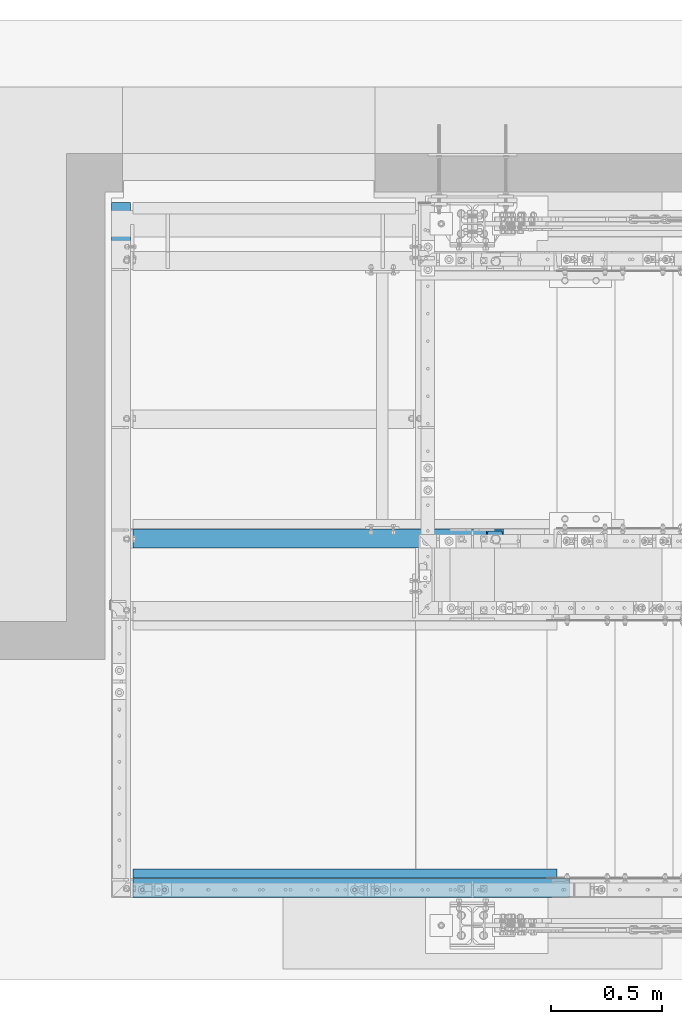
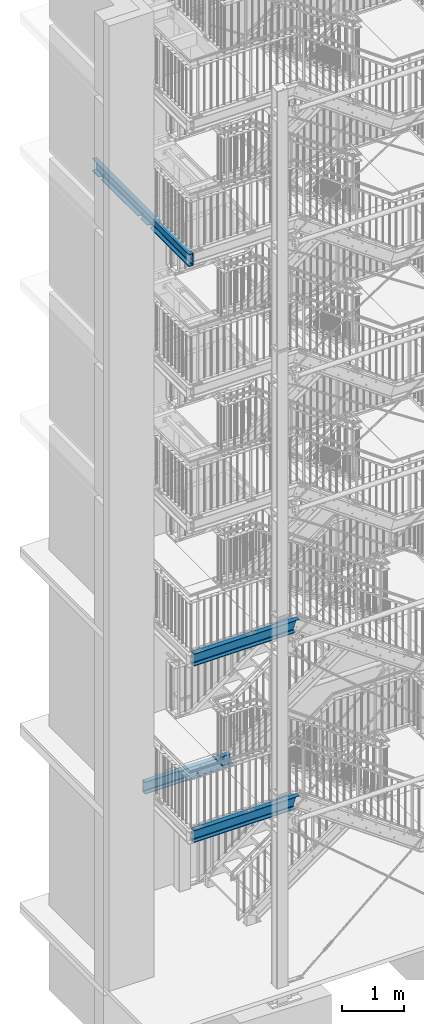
# One storey, part 116 of 831: 6 beams, 31 openings.
"""IFC2X3 building model written with IfcOpenShell, lengths in millimetres."""

import ifcopenshell
import ifcopenshell.guid

model = None  # the IFC model being written
_history = None  # IfcOwnerHistory: only IFC2X3 demands one
_inside = {}  # id of a spatial element -> (the spatial element, [elements in it])
_under = {}  # id of a project, library or spatial element -> (it, [spatial elements below it])
_declared = {}  # id of a project -> (the project, [libraries it declares])
_typed = {}  # id of a type object -> (the type object, [elements of that type])
_made_of = {}  # id of a material, layer set ... -> (it, [elements and type objects made of it])


def new_model(schema):
    """Start an empty IFC model of exactly this schema.

    Asked for "IFC4X3", IfcOpenShell would pick the latest addendum, in which some entities
    have other attributes; the version numbers below select the first issue.
    IFC2X3 requires an IfcOwnerHistory on every rooted entity: one is made here for all.
    """
    global model, _history
    if schema == "IFC4X3":
        model = ifcopenshell.file(schema_version=(4, 3, 0, 0))
    else:
        model = ifcopenshell.file(schema=schema)
    _inside.clear()
    _under.clear()
    _declared.clear()
    _typed.clear()
    _made_of.clear()
    _history = None
    if model.schema == "IFC2X3":
        org = make("IfcOrganization", Name="unknown")
        user = make(
            "IfcPersonAndOrganization",
            ThePerson=make("IfcPerson", FamilyName="unknown"),
            TheOrganization=org,
        )
        app = make(
            "IfcApplication",
            ApplicationDeveloper=org,
            Version="unknown",
            ApplicationFullName="unknown",
            ApplicationIdentifier="unknown",
        )
        _history = make(
            "IfcOwnerHistory",
            OwningUser=user,
            OwningApplication=app,
            ChangeAction="ADDED",
            CreationDate=0,
        )
    return model


def make(cls, **values):
    """One entity of the class cls with the attributes given. An attribute that is None is left unset."""
    return model.create_entity(
        cls, **{name: value for name, value in values.items() if value is not None}
    )


def entity(cls, *values):
    """Any entity or typed value of the class cls, its attributes in the order of the schema. None: left unset."""
    e = model.create_entity(cls)
    for i, value in enumerate(values):
        if value is not None:
            e[i] = value
    return e


def rooted(cls, **values):
    """An entity with a GlobalId (a new one), such as an element, a storey or a relation."""
    return make(cls, GlobalId=ifcopenshell.guid.new(), OwnerHistory=_history, **values)


def si_unit(unit_type, name, prefix=None):
    """IfcSIUnit, for example si_unit("LENGTHUNIT", "METRE", prefix="MILLI")."""
    return make("IfcSIUnit", UnitType=unit_type, Prefix=prefix, Name=name)


def converted_unit(unit_type, name, factor, base, dimensions=None, offset=None):
    """IfcConversionBasedUnit, such as the inch: factor (a typed value) times the base unit."""
    return make(
        "IfcConversionBasedUnit"
        if offset is None
        else "IfcConversionBasedUnitWithOffset",
        ConversionOffset=offset,
        Dimensions=None
        if dimensions is None
        else entity("IfcDimensionalExponents", *dimensions),
        UnitType=unit_type,
        Name=name,
        ConversionFactor=make(
            "IfcMeasureWithUnit", ValueComponent=factor, UnitComponent=base
        ),
    )


def assignment(units):
    """IfcUnitAssignment: the units of a project."""
    return None if units is None else make("IfcUnitAssignment", Units=units)


def point(xyz):
    """IfcCartesianPoint."""
    return None if xyz is None else make("IfcCartesianPoint", Coordinates=xyz)


def direction(xyz):
    """IfcDirection."""
    return None if xyz is None else make("IfcDirection", DirectionRatios=xyz)


def frame(location, z_axis=None, x_axis=None):
    """IfcAxis2Placement3D, a coordinate frame: its origin and axes. An axis left out is left unset."""
    return make(
        "IfcAxis2Placement3D",
        Location=point(location),
        Axis=direction(z_axis),
        RefDirection=direction(x_axis),
    )


def frame_2d(location, x_axis=None):
    """IfcAxis2Placement2D, a coordinate frame in the plane: its origin and x axis."""
    return make(
        "IfcAxis2Placement2D", Location=point(location), RefDirection=direction(x_axis)
    )


def origin():
    """The frame at (0, 0, 0) with its axes left unset."""
    return frame((0.0, 0.0, 0.0))


def origin_with_axes():
    """The frame at (0, 0, 0) with the z axis (0, 0, 1) and the x axis (1, 0, 0) written out."""
    return frame((0.0, 0.0, 0.0), z_axis=(0.0, 0.0, 1.0), x_axis=(1.0, 0.0, 0.0))


def origin_2d_with_axis():
    """The frame at (0, 0) in the plane with the x axis (1, 0) written out."""
    return frame_2d((0.0, 0.0), x_axis=(1.0, 0.0))


def place(relative_to, where):
    """IfcLocalPlacement: puts the frame where relative to a parent placement (None: the world)."""
    return make(
        "IfcLocalPlacement", PlacementRelTo=relative_to, RelativePlacement=where
    )


def context(
    kind, dimensions, precision=None, world=None, true_north=None, identifier=None
):
    """IfcGeometricRepresentationContext, for example the 3D "Model" context."""
    return make(
        "IfcGeometricRepresentationContext",
        ContextIdentifier=identifier,
        ContextType=kind,
        CoordinateSpaceDimension=dimensions,
        Precision=precision,
        WorldCoordinateSystem=world,
        TrueNorth=true_north,
    )


def project(units=None, contexts=None):
    """IfcProject with its units and contexts."""
    return rooted(
        "IfcProject",
        Name="project",
        RepresentationContexts=contexts,
        UnitsInContext=assignment(units),
    )


def spatial(cls, under=None, at=None, **own):
    """A site, building, storey or space (cls), placed at a placement, below another one or the project."""
    s = rooted(cls, ObjectPlacement=at, **own)
    if under is not None:
        _under.setdefault(under.id(), (under, []))[1].append(s)
    return s


def circle_curve(where, radius):
    """IfcCircle in the frame where."""
    return make("IfcCircle", Position=where, Radius=radius)


def line_curve(start, along, magnitude):
    """IfcLine from a point along a vector."""
    return make(
        "IfcLine",
        Pnt=point(start),
        Dir=make("IfcVector", Orientation=direction(along), Magnitude=magnitude),
    )


def trimmed(basis, trim1, trim2, sense, master):
    """IfcTrimmedCurve: the piece of a basis curve between two trims."""
    return make(
        "IfcTrimmedCurve",
        BasisCurve=basis,
        Trim1=trim1,
        Trim2=trim2,
        SenseAgreement=sense,
        MasterRepresentation=master,
    )


def segment(curve, same_sense, transition):
    """IfcCompositeCurveSegment."""
    return make(
        "IfcCompositeCurveSegment",
        Transition=transition,
        SameSense=same_sense,
        ParentCurve=curve,
    )


def composite_curve(segments, self_intersect=None):
    """IfcCompositeCurve: segments joined end to end."""
    return make("IfcCompositeCurve", Segments=segments, SelfIntersect=self_intersect)


def profile(cls, at=None, kind="AREA", **sizes):
    """A parametric profile (cls). Its sizes go by their IFC names, for example OverallWidth=200.0."""
    return make(cls, ProfileType=kind, Position=at, **sizes)


def circle(**sizes):
    """IfcCircleProfileDef."""
    return profile("IfcCircleProfileDef", **sizes)


def l_section(**sizes):
    """IfcLShapeProfileDef."""
    return profile("IfcLShapeProfileDef", **sizes)


def u_section(**sizes):
    """IfcUShapeProfileDef."""
    return profile("IfcUShapeProfileDef", **sizes)


def outline(outer, holes=None, kind="AREA"):
    """IfcArbitraryClosedProfileDef: a profile drawn as a closed curve; with holes, ...WithVoids."""
    if holes is None:
        return make("IfcArbitraryClosedProfileDef", ProfileType=kind, OuterCurve=outer)
    return make(
        "IfcArbitraryProfileDefWithVoids",
        ProfileType=kind,
        OuterCurve=outer,
        InnerCurves=holes,
    )


def extrude(swept, where, along, depth):
    """IfcExtrudedAreaSolid: the profile swept, set in the frame where, extruded along a direction by depth."""
    return make(
        "IfcExtrudedAreaSolid",
        SweptArea=swept,
        Position=where,
        ExtrudedDirection=direction(along),
        Depth=depth,
    )


def clip(a, b, op="DIFFERENCE"):
    """IfcBooleanClippingResult: the solid a cut by the half space b."""
    return make(
        "IfcBooleanClippingResult", Operator=op, FirstOperand=a, SecondOperand=b
    )


def halfspace(plane, agree):
    """IfcHalfSpaceSolid: all space on one side of the plane z = 0 of the frame plane."""
    return make(
        "IfcHalfSpaceSolid",
        BaseSurface=make("IfcPlane", Position=plane),
        AgreementFlag=agree,
    )


def shape(context_of_items, identifier, shape_type, items):
    """IfcShapeRepresentation: the items that make up one representation, for example the "Body"."""
    return make(
        "IfcShapeRepresentation",
        ContextOfItems=context_of_items,
        RepresentationIdentifier=identifier,
        RepresentationType=shape_type,
        Items=items,
    )


def material(Name=None, Category=None):
    """IfcMaterial."""
    return make("IfcMaterial", Name=Name, Category=Category)


def made_of(thing, what):
    """Note that an element or type object is made of a material, layer set ...; save() writes the relation."""
    if what is not None:
        _made_of.setdefault(what.id(), (what, []))[1].append(thing)
    return thing


def element(
    cls,
    number,
    at=None,
    inside=None,
    cuts=None,
    type_object=None,
    material=None,
    context=None,
    identifier="Body",
    shape_type=None,
    held_by="IfcProductDefinitionShape",
    body=None,
    shapes=None,
    **own,
):
    """One element of the class cls, such as IfcWall. Its Tag is "e" and its number.

    at: its placement. inside: the storey or other place that contains it. cuts: it is an
    opening in that element (IfcRelVoidsElement). A single representation is given by context,
    identifier, shape_type and body (its items); several are given by shapes. held_by: the class
    of the entity that holds the representations. save() writes the other relations.
    """
    e = rooted(cls, Tag="e%d" % number, ObjectPlacement=at, **own)
    if body is not None:
        shapes = [shape(context, identifier, shape_type, body)]
    if shapes is not None:
        e.Representation = make(held_by, Representations=shapes)
    if inside is not None:
        _inside.setdefault(inside.id(), (inside, []))[1].append(e)
    if cuts is not None:
        rooted(
            "IfcRelVoidsElement", RelatingBuildingElement=cuts, RelatedOpeningElement=e
        )
    if type_object is not None:
        _typed.setdefault(type_object.id(), (type_object, []))[1].append(e)
    return made_of(e, material)


def aggregate(whole, parts):
    """IfcRelAggregates: a whole, such as a stair, and the parts it consists of."""
    return rooted("IfcRelAggregates", RelatingObject=whole, RelatedObjects=parts)


def save(model, path):
    """Write the relations noted so far, then the file.

    IfcRelAggregates (storeys below a building ...), IfcRelContainedInSpatialStructure (elements
    in a storey), IfcRelDefinesByType, IfcRelAssociatesMaterial and IfcRelDeclares: one each for
    every whole, place, type object, material and project.
    """
    for whole, parts in _under.values():
        aggregate(whole, parts)
    for where, things in _inside.values():
        rooted(
            "IfcRelContainedInSpatialStructure",
            RelatedElements=things,
            RelatingStructure=where,
        )
    for kind, things in _typed.values():
        rooted("IfcRelDefinesByType", RelatedObjects=things, RelatingType=kind)
    for what, things in _made_of.values():
        rooted("IfcRelAssociatesMaterial", RelatedObjects=things, RelatingMaterial=what)
    for by, libraries in _declared.values():
        rooted("IfcRelDeclares", RelatingContext=by, RelatedDefinitions=libraries)
    model.write(path)


model = new_model("IFC2X3")

# Units and contexts
model_context = context("Model", 3, precision=1e-09, world=origin_with_axes())
ifc_project = project(units=[si_unit("LENGTHUNIT", "METRE", prefix="MILLI"), si_unit("AREAUNIT", "SQUARE_METRE"), si_unit("VOLUMEUNIT", "CUBIC_METRE"), converted_unit("PLANEANGLEUNIT", "DEGREE", entity("IfcPlaneAngleMeasure", 0.01745329), si_unit("PLANEANGLEUNIT", "RADIAN"), dimensions=[0, 0, 0, 0, 0, 0, 0])], contexts=[model_context])

# Site, building, storey
site_placement = place(None, origin_with_axes())
site = spatial("IfcSite", under=ifc_project, at=site_placement, Name="Site", CompositionType="ELEMENT")
building_placement = place(site_placement, origin_with_axes())
building = spatial("IfcBuilding", under=site, at=building_placement, Name="Struktur 1", CompositionType="ELEMENT")
storey_placement = place(building_placement, origin_with_axes())
storey = spatial("IfcBuildingStorey", under=building, at=storey_placement, Name="Default Storey", CompositionType="ELEMENT", Elevation=0.0)

# Beam, openings
ifc_material = material(Name="S235JR")
beam_1_placement = place(None, frame((3074.409632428, 6124.436971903, 3727.0), z_axis=(-1.0, 0.0, 0.0), x_axis=(0.0, -1.0, 0.0)))
beam_1 = element("IfcBeam", 1, at=beam_1_placement, inside=storey, material=ifc_material, Name="BottomLanding#1", ObjectType="BottomLanding#1", context=model_context, shape_type="Clipping", body=[
    clip(clip(extrude(u_section(Depth=240.0, FlangeWidth=85.0, WebThickness=9.5, FlangeThickness=13.0, FilletRadius=13.0, EdgeRadius=6.5, FlangeSlope=4.574, at=frame_2d((20.2, 0.0))), origin(), (0.0, 0.0, -1.0), 2104.790555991), halfspace(frame((6124.436971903, -3727.0, -257.304770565), z_axis=(0.0, 0.0, -1.0), x_axis=(-1.0, 0.0, 0.0)), True)), halfspace(frame((6124.436971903, -1962.281935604, -2504.118187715), z_axis=(0.0, -0.301609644, 0.953431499), x_axis=(1.0, 0.0, 0.0)), True)),
])
opening_1_placement = place(beam_1_placement, frame((-12.3, 20.0, -1420.302770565), z_axis=(1.0, 0.0, 0.0), x_axis=(0.0, 1.0, 0.0)))
element("IfcOpeningElement", 2, at=opening_1_placement, cuts=beam_1, ObjectType="Opening", context=model_context, shape_type="SweptSolid", body=[
    extrude(circle(Radius=7.001, at=frame_2d((0.0, -7.001), x_axis=(1.0, 0.0))), origin(), (0.0, 0.0, -1.0), 10.5),
])
opening_2_placement = place(beam_1_placement, frame((-12.3, 20.0, -1320.302770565), z_axis=(1.0, 0.0, 0.0), x_axis=(0.0, 1.0, 0.0)))
element("IfcOpeningElement", 3, at=opening_2_placement, cuts=beam_1, ObjectType="Opening", context=model_context, shape_type="SweptSolid", body=[
    extrude(circle(Radius=7.001, at=frame_2d((0.0, -7.001), x_axis=(1.0, 0.0))), origin(), (0.0, 0.0, -1.0), 10.5),
])
opening_3_placement = place(beam_1_placement, frame((32.7, 120.5, -1670.302770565), z_axis=(0.0, 1.0, 0.0), x_axis=(-1.0, 0.0, 0.0)))
element("IfcOpeningElement", 4, at=opening_3_placement, cuts=beam_1, ObjectType="Opening", context=model_context, shape_type="SweptSolid", body=[
    extrude(circle(Radius=7.001, at=frame_2d((0.0, -7.001), x_axis=(1.0, 0.0))), origin(), (0.0, 0.0, -1.0), 14.0),
])
opening_4_placement = place(beam_1_placement, frame((32.7, 120.5, -1570.302770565), z_axis=(0.0, 1.0, 0.0), x_axis=(-1.0, 0.0, 0.0)))
element("IfcOpeningElement", 5, at=opening_4_placement, cuts=beam_1, ObjectType="Opening", context=model_context, shape_type="SweptSolid", body=[
    extrude(circle(Radius=7.001, at=frame_2d((0.0, -7.001), x_axis=(1.0, 0.0))), origin(), (0.0, 0.0, -1.0), 14.0),
])
opening_5_placement = place(beam_1_placement, frame((22.7, -120.5, -1832.303770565), z_axis=(0.0, 1.0, 0.0), x_axis=(-1.0, 0.0, 0.0)))
element("IfcOpeningElement", 6, at=opening_5_placement, cuts=beam_1, ObjectType="Opening", context=model_context, shape_type="SweptSolid", body=[
    extrude(circle(Radius=7.001, at=origin_2d_with_axis()), origin(), (0.0, 0.0, 1.0), 14.0),
])
opening_6_placement = place(beam_1_placement, frame((22.7, -120.5, -1732.303770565), z_axis=(0.0, 1.0, 0.0), x_axis=(-1.0, 0.0, 0.0)))
element("IfcOpeningElement", 7, at=opening_6_placement, cuts=beam_1, ObjectType="Opening", context=model_context, shape_type="SweptSolid", body=[
    extrude(circle(Radius=7.001, at=origin_2d_with_axis()), origin(), (0.0, 0.0, 1.0), 14.0),
])

beam_2_placement = place(None, frame((5552.525390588, 4554.436971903, 3727.0), z_axis=(-1.0, 0.0, 0.0), x_axis=(0.0, -1.0, 0.0)))
beam_2 = element("IfcBeam", 8, at=beam_2_placement, inside=storey, material=ifc_material, Name="Stringer", ObjectType="Stringer", context=model_context, shape_type="Clipping", body=[
    clip(clip(extrude(u_section(Depth=240.0, FlangeWidth=85.0, WebThickness=9.5, FlangeThickness=13.0, FilletRadius=13.0, EdgeRadius=6.5, FlangeSlope=4.574, at=frame_2d((20.2, 0.0))), origin(), (0.0, 0.0, 1.0), 2478.11575816), halfspace(frame((4554.436971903, -3727.0, 2220.810987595), z_axis=(0.0, 0.0, -1.0), x_axis=(-1.0, 0.0, 0.0)), True)), halfspace(frame((4554.436971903, -4905.321546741, 1865.767544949), z_axis=(0.0, 0.304437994, 0.952532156), x_axis=(1.0, 0.0, 0.0)), True)),
])
opening_7_placement = place(beam_2_placement, frame((27.7, 120.5, 2170.735869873), z_axis=(0.0, 1.0, 0.0), x_axis=(-1.0, 0.0, 0.0)))
element("IfcOpeningElement", 9, at=opening_7_placement, cuts=beam_2, ObjectType="Opening", context=model_context, shape_type="SweptSolid", body=[
    extrude(circle(Radius=7.001, at=frame_2d((0.0, 7.001), x_axis=(1.0, 0.0))), origin(), (0.0, 0.0, -1.0), 14.0),
])
opening_8_placement = place(beam_2_placement, frame((27.7, 120.5, 2070.735869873), z_axis=(0.0, 1.0, 0.0), x_axis=(-1.0, 0.0, 0.0)))
element("IfcOpeningElement", 10, at=opening_8_placement, cuts=beam_2, ObjectType="Opening", context=model_context, shape_type="SweptSolid", body=[
    extrude(circle(Radius=7.001, at=frame_2d((0.0, 7.001), x_axis=(1.0, 0.0))), origin(), (0.0, 0.0, -1.0), 14.0),
])
opening_9_placement = place(beam_2_placement, frame((27.7, 120.5, 1217.65875215), z_axis=(0.0, 1.0, 0.0), x_axis=(-1.0, 0.0, 0.0)))
element("IfcOpeningElement", 11, at=opening_9_placement, cuts=beam_2, ObjectType="Opening", context=model_context, shape_type="SweptSolid", body=[
    extrude(circle(Radius=7.001, at=frame_2d((0.0, 7.001), x_axis=(1.0, 0.0))), origin(), (0.0, 0.0, -1.0), 14.0),
])
opening_10_placement = place(beam_2_placement, frame((27.7, 120.5, 1117.65875215), z_axis=(0.0, 1.0, 0.0), x_axis=(-1.0, 0.0, 0.0)))
element("IfcOpeningElement", 12, at=opening_10_placement, cuts=beam_2, ObjectType="Opening", context=model_context, shape_type="SweptSolid", body=[
    extrude(circle(Radius=7.001, at=frame_2d((0.0, 7.001), x_axis=(1.0, 0.0))), origin(), (0.0, 0.0, -1.0), 14.0),
])
opening_11_placement = place(beam_2_placement, frame((29.701, -120.5, 645.811987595), z_axis=(0.0, -1.0, 0.0), x_axis=(1.0, 0.0, 0.0)))
element("IfcOpeningElement", 13, at=opening_11_placement, cuts=beam_2, ObjectType="Opening", context=model_context, shape_type="SweptSolid", body=[
    extrude(circle(Radius=7.001, at=frame_2d((-7.001, 0.0), x_axis=(1.0, 0.0))), origin(), (0.0, 0.0, -1.0), 14.0),
])
opening_12_placement = place(beam_2_placement, frame((29.701, -120.5, 745.811987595), z_axis=(0.0, -1.0, 0.0), x_axis=(1.0, 0.0, 0.0)))
element("IfcOpeningElement", 14, at=opening_12_placement, cuts=beam_2, ObjectType="Opening", context=model_context, shape_type="SweptSolid", body=[
    extrude(circle(Radius=7.001, at=frame_2d((-7.001, 0.0), x_axis=(1.0, 0.0))), origin(), (0.0, 0.0, -1.0), 14.0),
])

# Beam
beam_3_placement = place(None, frame((5236.713402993, 4590.936971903, 3835.8), z_axis=(1.0, 0.0, 0.0), x_axis=(0.0, 0.0, -1.0)))
element("IfcBeam", 15, at=beam_3_placement, inside=storey, material=ifc_material, Name="TopLanding#3", ObjectType="TopLanding#3", context=model_context, shape_type="SweptSolid", body=[
    extrude(l_section(Depth=40.0, Width=40.0, Thickness=4.0, FilletRadius=6.0, EdgeRadius=3.0, at=frame_2d((8.8, 8.8))), origin(), (0.0, 0.0, -1.0), 1905.0),
])

# Beam, openings
beam_4_placement = place(None, frame((5552.992298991, 4554.436971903, 7200.0), z_axis=(-1.0, 0.0, 0.0), x_axis=(0.0, -1.0, 0.0)))
beam_4 = element("IfcBeam", 16, at=beam_4_placement, inside=storey, material=ifc_material, Name="Stringer", ObjectType="Stringer", context=model_context, shape_type="Clipping", body=[
    clip(clip(extrude(u_section(Depth=240.0, FlangeWidth=85.0, WebThickness=9.5, FlangeThickness=13.0, FilletRadius=13.0, EdgeRadius=6.5, FlangeSlope=4.574, at=frame_2d((20.2, 0.0))), origin(), (0.0, 0.0, 1.0), 2478.582666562), halfspace(frame((4554.436971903, -7200.0, 2221.277895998), z_axis=(0.0, 0.0, -1.0), x_axis=(-1.0, 0.0, 0.0)), True)), halfspace(frame((4554.436971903, -8056.363400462, 2845.904323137), z_axis=(0.0, 0.301609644, 0.953431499), x_axis=(1.0, 0.0, 0.0)), True)),
])
opening_13_placement = place(beam_4_placement, frame((27.7, 120.5, 2171.19975314), z_axis=(0.0, 1.0, 0.0), x_axis=(-1.0, 0.0, 0.0)))
element("IfcOpeningElement", 17, at=opening_13_placement, cuts=beam_4, ObjectType="Opening", context=model_context, shape_type="SweptSolid", body=[
    extrude(circle(Radius=7.001, at=frame_2d((0.0, 7.001), x_axis=(1.0, 0.0))), origin(), (0.0, 0.0, -1.0), 14.0),
])
opening_14_placement = place(beam_4_placement, frame((27.7, 120.5, 2071.19975314), z_axis=(0.0, 1.0, 0.0), x_axis=(-1.0, 0.0, 0.0)))
element("IfcOpeningElement", 18, at=opening_14_placement, cuts=beam_4, ObjectType="Opening", context=model_context, shape_type="SweptSolid", body=[
    extrude(circle(Radius=7.001, at=frame_2d((0.0, 7.001), x_axis=(1.0, 0.0))), origin(), (0.0, 0.0, -1.0), 14.0),
])
opening_15_placement = place(beam_4_placement, frame((27.7, 120.5, 1186.199610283), z_axis=(0.0, 1.0, 0.0), x_axis=(-1.0, 0.0, 0.0)))
element("IfcOpeningElement", 19, at=opening_15_placement, cuts=beam_4, ObjectType="Opening", context=model_context, shape_type="SweptSolid", body=[
    extrude(circle(Radius=7.001, at=frame_2d((0.0, 7.001), x_axis=(1.0, 0.0))), origin(), (0.0, 0.0, -1.0), 14.0),
])
opening_16_placement = place(beam_4_placement, frame((27.7, 120.5, 1086.199610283), z_axis=(0.0, 1.0, 0.0), x_axis=(-1.0, 0.0, 0.0)))
element("IfcOpeningElement", 20, at=opening_16_placement, cuts=beam_4, ObjectType="Opening", context=model_context, shape_type="SweptSolid", body=[
    extrude(circle(Radius=7.001, at=frame_2d((0.0, 7.001), x_axis=(1.0, 0.0))), origin(), (0.0, 0.0, -1.0), 14.0),
])
opening_17_placement = place(beam_4_placement, frame((29.701, -120.5, 646.278895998), z_axis=(0.0, -1.0, 0.0), x_axis=(1.0, 0.0, 0.0)))
element("IfcOpeningElement", 21, at=opening_17_placement, cuts=beam_4, ObjectType="Opening", context=model_context, shape_type="SweptSolid", body=[
    extrude(circle(Radius=7.001, at=frame_2d((-7.001, 0.0), x_axis=(1.0, 0.0))), origin(), (0.0, 0.0, -1.0), 14.0),
])
opening_18_placement = place(beam_4_placement, frame((29.701, -120.5, 746.278895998), z_axis=(0.0, -1.0, 0.0), x_axis=(1.0, 0.0, 0.0)))
element("IfcOpeningElement", 22, at=opening_18_placement, cuts=beam_4, ObjectType="Opening", context=model_context, shape_type="SweptSolid", body=[
    extrude(circle(Radius=7.001, at=frame_2d((-7.001, 0.0), x_axis=(1.0, 0.0))), origin(), (0.0, 0.0, -1.0), 14.0),
])

# Beam
beam_5_placement = place(None, frame((5236.713402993, 4590.936971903, 7308.8), z_axis=(1.0, 0.0, 0.0), x_axis=(0.0, 0.0, -1.0)))
element("IfcBeam", 23, at=beam_5_placement, inside=storey, material=ifc_material, Name="TopLanding#3", ObjectType="TopLanding#3", context=model_context, shape_type="SweptSolid", body=[
    extrude(l_section(Depth=40.0, Width=40.0, Thickness=4.0, FilletRadius=6.0, EdgeRadius=3.0, at=frame_2d((8.8, 8.8))), origin(), (0.0, 0.0, -1.0), 1905.0),
])

# Beam, openings
beam_6_placement = place(None, frame((3299.413402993, 4491.736971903, 15094.0), z_axis=(0.0, 1.0, 0.0), x_axis=(-1.0, 0.0, 0.0)))
beam_6 = element("IfcBeam", 24, at=beam_6_placement, inside=storey, material=ifc_material, Name="Girder", ObjectType="Girder", context=model_context, shape_type="SweptSolid", body=[
    extrude(u_section(Depth=240.0, FlangeWidth=85.0, WebThickness=9.5, FlangeThickness=13.0, FilletRadius=13.0, EdgeRadius=6.5, FlangeSlope=4.574, at=frame_2d((20.2, 0.0))), origin(), (0.0, 0.0, 1.0), 3120.0),
])
opening_19_placement = place(beam_6_placement, frame((81.62874817, -30.0, 1269.999), z_axis=(0.0, 1.0, 0.0), x_axis=(-0.707106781, 0.0, -0.707106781)))
element("IfcOpeningElement", 25, at=opening_19_placement, cuts=beam_6, ObjectType="Opening", context=model_context, shape_type="SweptSolid", body=[
    extrude(outline(composite_curve([segment(trimmed(circle_curve(frame_2d((7.071067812, 7.071067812), x_axis=(1.0, 0.0)), 10.0), [point((0.0, 0.0))], [point((14.142135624, 0.0))], True, "CARTESIAN"), True, "CONTINUOUS"), segment(trimmed(line_curve((14.142135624, 0.0), (0.707106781, 0.707106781), 48.92974817), [point((14.142135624, 0.0))], [point((48.740692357, 34.598556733))], True, "CARTESIAN"), True, "CONTINUOUS"), segment(trimmed(circle_curve(frame_2d((41.669624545, 41.669624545), x_axis=(1.0, 0.0)), 10.0), [point((48.740692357, 34.598556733))], [point((48.740692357, 48.740692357))], True, "CARTESIAN"), True, "CONTINUOUS"), segment(trimmed(line_curve((48.740692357, 48.740692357), (-0.707106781, 0.707106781), 60.002), [point((48.740692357, 48.740692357))], [point((6.312871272, 91.168513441))], True, "CARTESIAN"), True, "CONTINUOUS"), segment(trimmed(circle_curve(frame_2d((-0.75819654, 84.097445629), x_axis=(1.0, 0.0)), 10.0), [point((6.312871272, 91.168513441))], [point((-7.829264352, 91.168513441))], True, "CARTESIAN"), True, "CONTINUOUS"), segment(trimmed(line_curve((-7.829264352, 91.168513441), (-0.707106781, -0.707106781), 48.92974817), [point((-7.829264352, 91.168513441))], [point((-42.427821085, 56.569956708))], True, "CARTESIAN"), True, "CONTINUOUS"), segment(trimmed(circle_curve(frame_2d((-35.356753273, 49.498888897), x_axis=(1.0, 0.0)), 10.0), [point((-42.427821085, 56.569956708))], [point((-42.427821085, 42.427821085))], True, "CARTESIAN"), True, "CONTINUOUS"), segment(trimmed(line_curve((-42.427821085, 42.427821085), (0.707106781, -0.707106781), 60.002), [point((-42.427821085, 42.427821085))], [point((0.0, 0.0))], True, "CARTESIAN"), True, "CONTINUOUS")], self_intersect=False)), origin(), (0.0, 0.0, -1.0), 190.1),
])
opening_20_placement = place(beam_6_placement, frame((79.429256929, -30.0, 2839.999), z_axis=(0.0, 1.0, 0.0), x_axis=(-0.707106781, 0.0, -0.707106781)))
element("IfcOpeningElement", 26, at=opening_20_placement, cuts=beam_6, ObjectType="Opening", context=model_context, shape_type="SweptSolid", body=[
    extrude(outline(composite_curve([segment(trimmed(circle_curve(frame_2d((7.071067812, 7.071067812), x_axis=(1.0, 0.0)), 10.0), [point((0.0, 0.0))], [point((14.142135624, 0.0))], True, "CARTESIAN"), True, "CONTINUOUS"), segment(trimmed(line_curve((14.142135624, 0.0), (0.707106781, 0.707106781), 46.730256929), [point((14.142135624, 0.0))], [point((47.185417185, 33.043281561))], True, "CARTESIAN"), True, "CONTINUOUS"), segment(trimmed(circle_curve(frame_2d((40.114349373, 40.114349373), x_axis=(1.0, 0.0)), 10.0), [point((47.185417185, 33.043281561))], [point((47.185417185, 47.185417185))], True, "CARTESIAN"), True, "CONTINUOUS"), segment(trimmed(line_curve((47.185417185, 47.185417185), (-0.707106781, 0.707106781), 60.002), [point((47.185417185, 47.185417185))], [point((4.7575961, 89.61323827))], True, "CARTESIAN"), True, "CONTINUOUS"), segment(trimmed(circle_curve(frame_2d((-2.313471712, 82.542170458), x_axis=(1.0, 0.0)), 10.0), [point((4.7575961, 89.61323827))], [point((-9.384539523, 89.61323827))], True, "CARTESIAN"), True, "CONTINUOUS"), segment(trimmed(line_curve((-9.384539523, 89.61323827), (-0.707106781, -0.707106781), 46.730256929), [point((-9.384539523, 89.61323827))], [point((-42.427821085, 56.569956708))], True, "CARTESIAN"), True, "CONTINUOUS"), segment(trimmed(circle_curve(frame_2d((-35.356753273, 49.498888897), x_axis=(1.0, 0.0)), 10.0), [point((-42.427821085, 56.569956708))], [point((-42.427821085, 42.427821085))], True, "CARTESIAN"), True, "CONTINUOUS"), segment(trimmed(line_curve((-42.427821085, 42.427821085), (0.707106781, -0.707106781), 60.002), [point((-42.427821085, 42.427821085))], [point((0.0, 0.0))], True, "CARTESIAN"), True, "CONTINUOUS")], self_intersect=False)), origin(), (0.0, 0.0, -1.0), 190.1),
])
opening_21_placement = place(beam_6_placement, frame((80.021054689, -30.0, 1569.999), z_axis=(0.0, 1.0, 0.0), x_axis=(-0.707106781, 0.0, -0.707106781)))
element("IfcOpeningElement", 27, at=opening_21_placement, cuts=beam_6, ObjectType="Opening", context=model_context, shape_type="SweptSolid", body=[
    extrude(outline(composite_curve([segment(trimmed(circle_curve(frame_2d((7.071067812, 7.071067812), x_axis=(1.0, 0.0)), 10.0), [point((0.0, 0.0))], [point((14.142135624, 0.0))], True, "CARTESIAN"), True, "CONTINUOUS"), segment(trimmed(line_curve((14.142135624, 0.0), (0.707106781, 0.707106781), 47.322054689), [point((14.142135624, 0.0))], [point((47.603881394, 33.46174577))], True, "CARTESIAN"), True, "CONTINUOUS"), segment(trimmed(circle_curve(frame_2d((40.532813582, 40.532813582), x_axis=(1.0, 0.0)), 10.0), [point((47.603881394, 33.46174577))], [point((47.603881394, 47.603881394))], True, "CARTESIAN"), True, "CONTINUOUS"), segment(trimmed(line_curve((47.603881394, 47.603881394), (-0.707106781, 0.707106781), 60.002), [point((47.603881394, 47.603881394))], [point((5.176060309, 90.031702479))], True, "CARTESIAN"), True, "CONTINUOUS"), segment(trimmed(circle_curve(frame_2d((-1.895007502, 82.960634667), x_axis=(1.0, 0.0)), 10.0), [point((5.176060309, 90.031702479))], [point((-8.966075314, 90.031702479))], True, "CARTESIAN"), True, "CONTINUOUS"), segment(trimmed(line_curve((-8.966075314, 90.031702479), (-0.707106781, -0.707106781), 47.322054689), [point((-8.966075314, 90.031702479))], [point((-42.427821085, 56.569956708))], True, "CARTESIAN"), True, "CONTINUOUS"), segment(trimmed(circle_curve(frame_2d((-35.356753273, 49.498888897), x_axis=(1.0, 0.0)), 10.0), [point((-42.427821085, 56.569956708))], [point((-42.427821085, 42.427821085))], True, "CARTESIAN"), True, "CONTINUOUS"), segment(trimmed(line_curve((-42.427821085, 42.427821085), (0.707106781, -0.707106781), 60.002), [point((-42.427821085, 42.427821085))], [point((0.0, 0.0))], True, "CARTESIAN"), True, "CONTINUOUS")], self_intersect=False)), origin(), (0.0, 0.0, -1.0), 190.1),
])
opening_22_placement = place(beam_6_placement, frame((27.7, 120.5, 1013.001), z_axis=(0.0, 1.0, 0.0), x_axis=(-1.0, 0.0, 0.0)))
element("IfcOpeningElement", 28, at=opening_22_placement, cuts=beam_6, ObjectType="Opening", context=model_context, shape_type="SweptSolid", body=[
    extrude(circle(Radius=7.001, at=frame_2d((0.0, 7.001), x_axis=(1.0, 0.0))), origin(), (0.0, 0.0, -1.0), 14.0),
])
opening_23_placement = place(beam_6_placement, frame((27.7, 120.5, 913.001), z_axis=(0.0, 1.0, 0.0), x_axis=(-1.0, 0.0, 0.0)))
element("IfcOpeningElement", 29, at=opening_23_placement, cuts=beam_6, ObjectType="Opening", context=model_context, shape_type="SweptSolid", body=[
    extrude(circle(Radius=7.001, at=frame_2d((0.0, 7.001), x_axis=(1.0, 0.0))), origin(), (0.0, 0.0, -1.0), 14.0),
])
opening_24_placement = place(beam_6_placement, frame((-12.3, 50.999, 1290.0), z_axis=(1.0, 0.0, 0.0), x_axis=(0.0, 1.0, 0.0)))
element("IfcOpeningElement", 30, at=opening_24_placement, cuts=beam_6, ObjectType="Opening", context=model_context, shape_type="SweptSolid", body=[
    extrude(circle(Radius=9.001, at=frame_2d((9.001, 0.0), x_axis=(1.0, 0.0))), origin(), (0.0, 0.0, -1.0), 10.5),
])
opening_25_placement = place(beam_6_placement, frame((-12.3, -69.001, 1290.0), z_axis=(1.0, 0.0, 0.0), x_axis=(0.0, 1.0, 0.0)))
element("IfcOpeningElement", 31, at=opening_25_placement, cuts=beam_6, ObjectType="Opening", context=model_context, shape_type="SweptSolid", body=[
    extrude(circle(Radius=9.001, at=frame_2d((9.001, 0.0), x_axis=(1.0, 0.0))), origin(), (0.0, 0.0, -1.0), 10.5),
])
opening_26_placement = place(beam_6_placement, frame((-12.3, 0.0, 40.0), z_axis=(-1.0, 0.0, 0.0), x_axis=(0.0, 1.0, 0.0)))
element("IfcOpeningElement", 32, at=opening_26_placement, cuts=beam_6, ObjectType="Opening", context=model_context, shape_type="SweptSolid", body=[
    extrude(circle(Radius=9.001, at=frame_2d((60.0, 0.0), x_axis=(1.0, 0.0))), origin(), (0.0, 0.0, 1.0), 10.5),
])
opening_27_placement = place(beam_6_placement, frame((-12.3, 0.0, 40.0), z_axis=(-1.0, 0.0, 0.0), x_axis=(0.0, 1.0, 0.0)))
element("IfcOpeningElement", 33, at=opening_27_placement, cuts=beam_6, ObjectType="Opening", context=model_context, shape_type="SweptSolid", body=[
    extrude(circle(Radius=9.001, at=frame_2d((-60.0, 0.0), x_axis=(1.0, 0.0))), origin(), (0.0, 0.0, 1.0), 10.5),
])
opening_28_placement = place(beam_6_placement, frame((-12.3, 0.0, 1610.0), z_axis=(-1.0, 0.0, 0.0), x_axis=(0.0, 1.0, 0.0)))
element("IfcOpeningElement", 34, at=opening_28_placement, cuts=beam_6, ObjectType="Opening", context=model_context, shape_type="SweptSolid", body=[
    extrude(circle(Radius=9.001, at=frame_2d((60.0, 0.0), x_axis=(1.0, 0.0))), origin(), (0.0, 0.0, 1.0), 10.5),
])
opening_29_placement = place(beam_6_placement, frame((-12.3, 0.0, 1610.0), z_axis=(-1.0, 0.0, 0.0), x_axis=(0.0, 1.0, 0.0)))
element("IfcOpeningElement", 35, at=opening_29_placement, cuts=beam_6, ObjectType="Opening", context=model_context, shape_type="SweptSolid", body=[
    extrude(circle(Radius=9.001, at=frame_2d((-60.0, 0.0), x_axis=(1.0, 0.0))), origin(), (0.0, 0.0, 1.0), 10.5),
])
opening_30_placement = place(beam_6_placement, frame((-12.3, 50.999, 2860.0), z_axis=(1.0, 0.0, 0.0), x_axis=(0.0, 1.0, 0.0)))
element("IfcOpeningElement", 36, at=opening_30_placement, cuts=beam_6, ObjectType="Opening", context=model_context, shape_type="SweptSolid", body=[
    extrude(circle(Radius=9.001, at=frame_2d((9.001, 0.0), x_axis=(1.0, 0.0))), origin(), (0.0, 0.0, -1.0), 10.5),
])
opening_31_placement = place(beam_6_placement, frame((-12.3, -69.001, 2860.0), z_axis=(1.0, 0.0, 0.0), x_axis=(0.0, 1.0, 0.0)))
element("IfcOpeningElement", 37, at=opening_31_placement, cuts=beam_6, ObjectType="Opening", context=model_context, shape_type="SweptSolid", body=[
    extrude(circle(Radius=9.001, at=frame_2d((9.001, 0.0), x_axis=(1.0, 0.0))), origin(), (0.0, 0.0, -1.0), 10.5),
])

save(model, "model.ifc")
